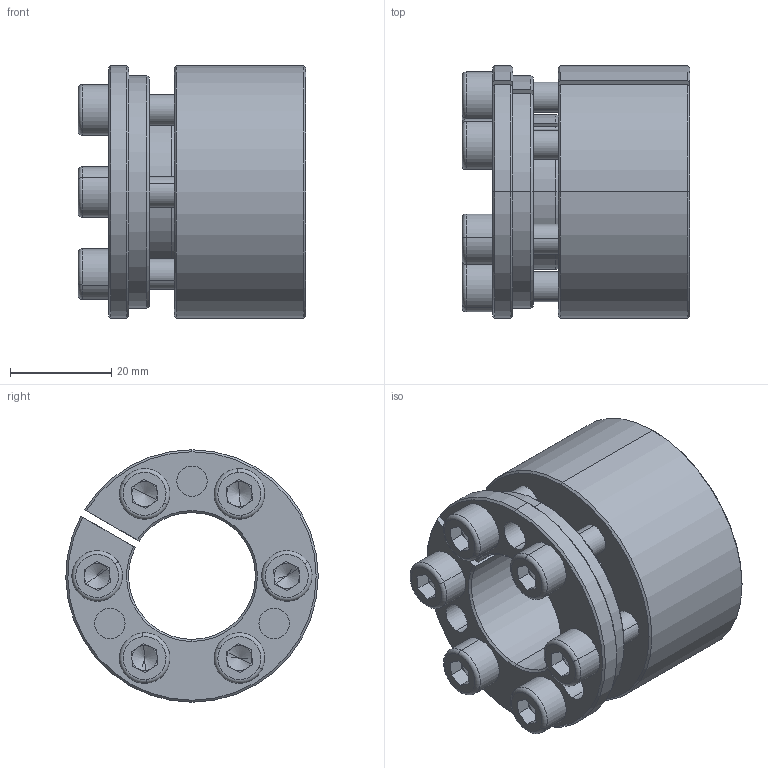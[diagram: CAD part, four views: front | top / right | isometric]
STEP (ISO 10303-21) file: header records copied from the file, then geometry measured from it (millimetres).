
FILE_DESCRIPTION (( 'STEP AP214' ), '1' );
FILE_NAME ('PL-H2 25-50.STEP', '2022-07-25T01:51:56', ( '' ), ( '' ), 'SwSTEP 2.0', 'SolidWorks 2022', '' );
FILE_SCHEMA (( 'AUTOMOTIVE_DESIGN' ));
Length unit declared in the file: millimetre
Products named in the file (1): PL-H2 25-50
Bounding box: 45 x 49.91 x 49.92 mm (x, y, z)
Volume: 48547.1 mm3; surface area: 20249.3 mm2
Topology: 1 solids, 1 shells, 239 faces, 587 edges, 362 vertices
Faces by surface type: plane 98, cylinder 69, cone 60, torus 12
Entity records: 7084 total; most frequent: DIRECTION 1304, CARTESIAN_POINT 1249, ORIENTED_EDGE 1150, EDGE_CURVE 575, AXIS2_PLACEMENT_3D 513, VERTEX_POINT 362, EDGE_LOOP 281, LINE 278
